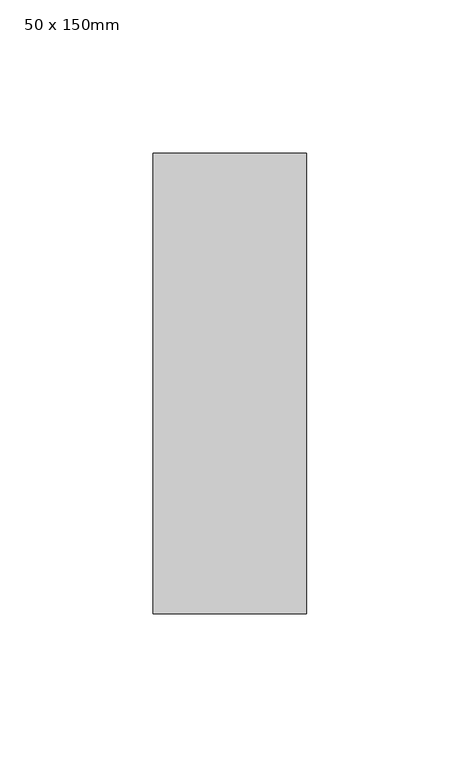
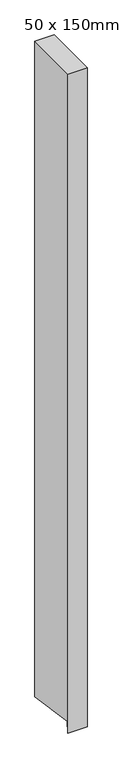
"""IFC4 building model written with IfcOpenShell, lengths in millimetres: member geometry, 矩形竖梃 : 50 x 150mm."""

from ifc_helpers import new_model, si_unit, frame, origin, place, context, project, spatial, polyline, outline, extrude, source, transform, mapped, element, save


def member_50_x_150mm_4461103d(model_context):
    return source(origin(), model_context, "Body", "SweptSolid", [
        extrude(outline(polyline([(-75.0, 0.0), (75.0, 0.0), (75.0, -1815.574472), (-70.6553215, -1794.53417), (-75.0, -1824.6109981), (-75.0, 0.0)])), frame((-50.0, 0.0, 0.0), z_axis=(1.0, 0.0, 0.0), x_axis=(0.0, 1.0, 0.0)), (0.0, 0.0, 1.0), 50.0),
    ])


if __name__ == "__main__":
    model = new_model("IFC4")
    model_context = context("Model", 3, world=origin())
    ifc_project = project(units=[si_unit("LENGTHUNIT", "METRE", prefix="MILLI")], contexts=[model_context])
    site = spatial("IfcSite", under=ifc_project)
    building = spatial("IfcBuilding", under=site)
    placement = place(None, origin())
    member_50_x_150mm_shape = member_50_x_150mm_4461103d(model_context)
    element("IfcMember", 1, ObjectType="矩形竖梃 : 50 x 150mm", at=placement, inside=building, context=model_context, shape_type="MappedRepresentation", body=[
        mapped(member_50_x_150mm_shape, transform((0.0, 0.0, 0.0), x_axis=(1.0, 0.0, 0.0), y_axis=(0.0, 1.0, 0.0), z_axis=(0.0, 0.0, 1.0))),
    ])
    save(model, "model.ifc")
